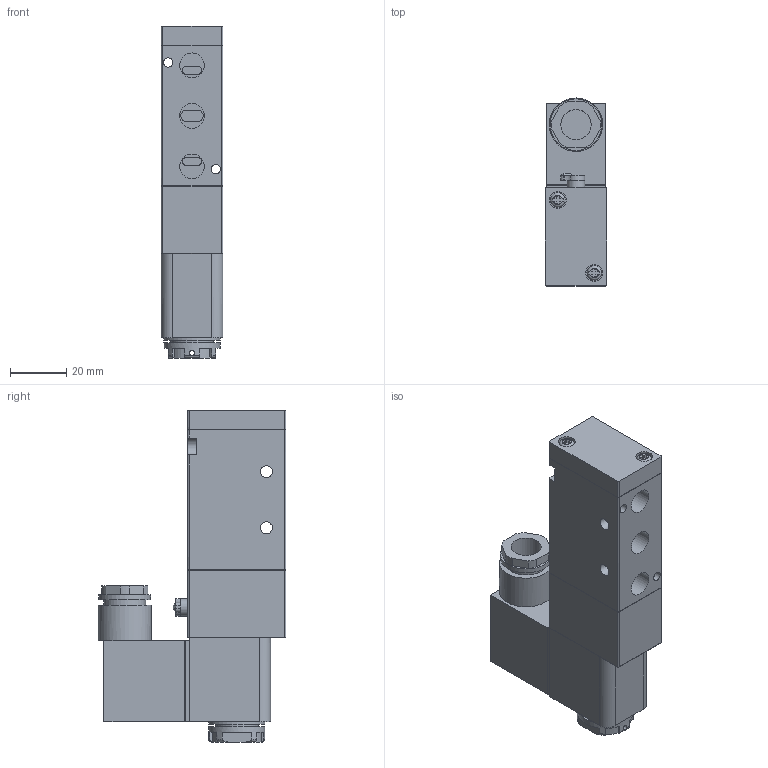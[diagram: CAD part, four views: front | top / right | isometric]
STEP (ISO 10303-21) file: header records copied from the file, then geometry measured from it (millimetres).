
FILE_DESCRIPTION(/* description */ (''),/* implementation_level */ '2;1');
FILE_NAME(/* name */ 'X:\Zeichnungen\3D\Basic-Line\Ventile\86-MV-5-28-511-M42.stp',/* time_stamp */ '2015-02-10T11:51:04+01:00',/* author */ ('Tschernatsch'),/* organization */ (''),/* preprocessor_version */ 'ST-DEVELOPER v15.2',/* originating_system */ 'Autodesk Inventor 2014',/* authorisation */ '');
FILE_SCHEMA (('AUTOMOTIVE_DESIGN { 1 0 10303 214 3 1 1 }'));
Length unit declared in the file: millimetre
Products named in the file (1): 86-MV-5-28-511-M42
Bounding box: 22 x 66.95 x 118.25 mm (x, y, z)
Volume: 101229.6 mm3; surface area: 22951.1 mm2
Topology: 1 solids, 1 shells, 292 faces, 757 edges, 489 vertices
Faces by surface type: plane 219, cylinder 62, torus 9, cone 2
Full cylindrical faces by diameter (mm): 1.8 x1, 3.3 x2, 4.3 x2, 5.2 x4, 6 x3, 6.25 x1, 7 x1, 8.8 x5, 10.8 x1, 15 x1, 15.2 x1, 18.4 x1, 19 x1, 20 x2
Entity records: 9168 total; most frequent: CARTESIAN_POINT 1693, DIRECTION 1501, ORIENTED_EDGE 1440, EDGE_CURVE 720, AXIS2_PLACEMENT_3D 513, VERTEX_POINT 481, LINE 475, VECTOR 475
